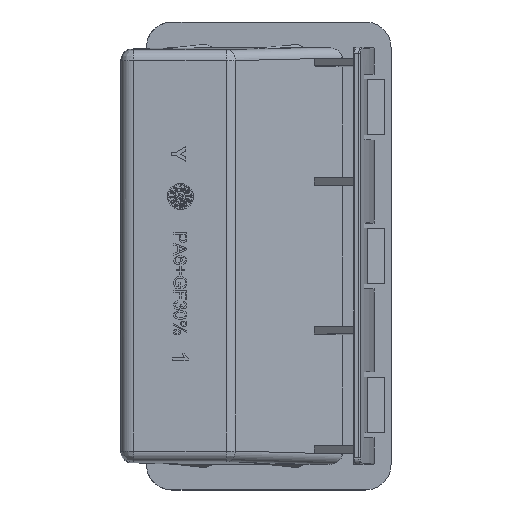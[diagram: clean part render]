
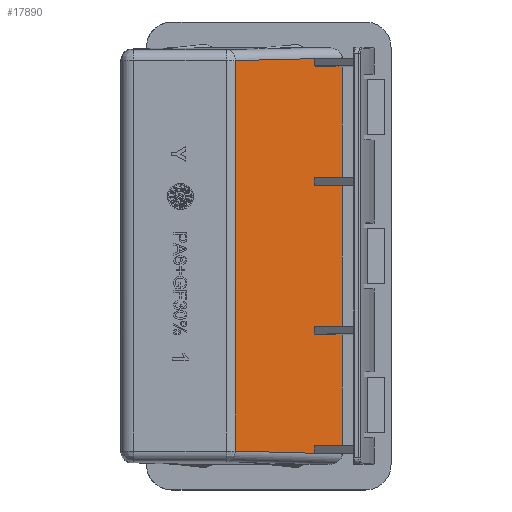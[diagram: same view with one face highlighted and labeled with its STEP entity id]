
A CAD part, top view. The second image highlights one B-rep face of the part: STEP entity #17890.
In plain terms, the highlighted planar face has unit normal (0.707, 0, 0.707).
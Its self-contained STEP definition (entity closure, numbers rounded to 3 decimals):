
#520=DIRECTION('',(0.,1.,0.));
#521=VECTOR('',#520,0.066);
#522=CARTESIAN_POINT('',(17.25,-46.545,2.));
#523=LINE('',#522,#521);
#552=DIRECTION('',(0.,1.,0.));
#553=VECTOR('',#552,26.041);
#554=CARTESIAN_POINT('',(17.25,-44.521,2.));
#555=LINE('',#554,#553);
#580=DIRECTION('',(0.,1.,0.));
#581=VECTOR('',#580,33.041);
#582=CARTESIAN_POINT('',(17.25,-16.521,2.));
#583=LINE('',#582,#581);
#608=DIRECTION('',(0.,1.,0.));
#609=VECTOR('',#608,26.041);
#610=CARTESIAN_POINT('',(17.25,18.479,2.));
#611=LINE('',#610,#609);
#636=DIRECTION('',(0.,1.,0.));
#637=VECTOR('',#636,0.066);
#638=CARTESIAN_POINT('',(17.25,46.479,2.));
#639=LINE('',#638,#637);
#743=DIRECTION('',(0.707,-0.019,-0.707));
#744=VECTOR('',#743,35.533);
#745=CARTESIAN_POINT('',(-7.871,-45.888,27.121));
#746=LINE('',#745,#744);
#747=DIRECTION('',(0.,-1.,0.));
#748=VECTOR('',#747,91.775);
#749=CARTESIAN_POINT('',(-7.871,45.888,27.121));
#750=LINE('',#749,#748);
#751=DIRECTION('',(-0.707,-0.019,0.707));
#752=VECTOR('',#751,35.533);
#753=CARTESIAN_POINT('',(17.25,46.545,2.));
#754=LINE('',#753,#752);
#755=DIRECTION('',(-0.707,-0.014,0.707));
#756=VECTOR('',#755,9.265);
#757=CARTESIAN_POINT('',(17.25,46.479,2.));
#758=LINE('',#757,#756);
#759=DIRECTION('',(0.,1.,0.));
#760=VECTOR('',#759,1.7);
#761=CARTESIAN_POINT('',(10.699,44.65,8.551));
#762=LINE('',#761,#760);
#763=DIRECTION('',(-0.707,0.014,0.707));
#764=VECTOR('',#763,9.265);
#765=CARTESIAN_POINT('',(17.25,44.521,2.));
#766=LINE('',#765,#764);
#767=DIRECTION('',(-0.707,-0.014,0.707));
#768=VECTOR('',#767,9.265);
#769=CARTESIAN_POINT('',(17.25,18.479,2.));
#770=LINE('',#769,#768);
#771=DIRECTION('',(0.,1.,0.));
#772=VECTOR('',#771,1.7);
#773=CARTESIAN_POINT('',(10.699,16.65,8.551));
#774=LINE('',#773,#772);
#775=DIRECTION('',(-0.707,0.014,0.707));
#776=VECTOR('',#775,9.265);
#777=CARTESIAN_POINT('',(17.25,16.521,2.));
#778=LINE('',#777,#776);
#779=DIRECTION('',(-0.707,-0.014,0.707));
#780=VECTOR('',#779,9.265);
#781=CARTESIAN_POINT('',(17.25,-16.521,2.));
#782=LINE('',#781,#780);
#783=DIRECTION('',(0.,-1.,0.));
#784=VECTOR('',#783,1.7);
#785=CARTESIAN_POINT('',(10.699,-16.65,8.551));
#786=LINE('',#785,#784);
#787=DIRECTION('',(-0.707,0.014,0.707));
#788=VECTOR('',#787,9.265);
#789=CARTESIAN_POINT('',(17.25,-18.479,2.));
#790=LINE('',#789,#788);
#791=DIRECTION('',(-0.707,-0.014,0.707));
#792=VECTOR('',#791,9.265);
#793=CARTESIAN_POINT('',(17.25,-44.521,2.));
#794=LINE('',#793,#792);
#795=DIRECTION('',(0.,-1.,0.));
#796=VECTOR('',#795,1.7);
#797=CARTESIAN_POINT('',(10.699,-44.65,8.551));
#798=LINE('',#797,#796);
#799=DIRECTION('',(-0.707,0.014,0.707));
#800=VECTOR('',#799,9.265);
#801=CARTESIAN_POINT('',(17.25,-46.479,2.));
#802=LINE('',#801,#800);
#14755=CARTESIAN_POINT('',(10.699,44.65,8.551));
#14756=CARTESIAN_POINT('',(10.699,46.35,8.551));
#14757=VERTEX_POINT('',#14755);
#14758=VERTEX_POINT('',#14756);
#14767=CARTESIAN_POINT('',(17.25,18.479,2.));
#14768=CARTESIAN_POINT('',(17.25,44.521,2.));
#14769=VERTEX_POINT('',#14767);
#14770=VERTEX_POINT('',#14768);
#14771=CARTESIAN_POINT('',(10.699,16.65,8.551));
#14772=CARTESIAN_POINT('',(10.699,18.35,8.551));
#14773=VERTEX_POINT('',#14771);
#14774=VERTEX_POINT('',#14772);
#14783=CARTESIAN_POINT('',(10.699,-44.65,8.551));
#14784=CARTESIAN_POINT('',(10.699,-46.35,8.551));
#14785=VERTEX_POINT('',#14783);
#14786=VERTEX_POINT('',#14784);
#14793=CARTESIAN_POINT('',(17.25,-16.521,2.));
#14794=CARTESIAN_POINT('',(17.25,16.521,2.));
#14795=VERTEX_POINT('',#14793);
#14796=VERTEX_POINT('',#14794);
#14799=CARTESIAN_POINT('',(17.25,-44.521,2.));
#14800=CARTESIAN_POINT('',(17.25,-18.479,2.));
#14801=VERTEX_POINT('',#14799);
#14802=VERTEX_POINT('',#14800);
#14803=CARTESIAN_POINT('',(10.699,-16.65,8.551));
#14804=CARTESIAN_POINT('',(10.699,-18.35,8.551));
#14805=VERTEX_POINT('',#14803);
#14806=VERTEX_POINT('',#14804);
#14811=CARTESIAN_POINT('',(17.25,-46.479,2.));
#14812=VERTEX_POINT('',#14811);
#14813=CARTESIAN_POINT('',(17.25,46.479,2.));
#14814=VERTEX_POINT('',#14813);
#14819=CARTESIAN_POINT('',(-7.871,-45.888,
27.121));
#14820=CARTESIAN_POINT('',(17.25,-46.545,2.));
#14821=VERTEX_POINT('',#14819);
#14822=VERTEX_POINT('',#14820);
#14855=CARTESIAN_POINT('',(-7.871,45.888,
27.121));
#14856=VERTEX_POINT('',#14855);
#14879=CARTESIAN_POINT('',(17.25,46.545,2.));
#14880=VERTEX_POINT('',#14879);
#17849=CARTESIAN_POINT('',(-8.75,-49.,28.));
#17850=DIRECTION('',(0.707,0.,0.707));
#17851=DIRECTION('',(0.707,0.,-0.707));
#17852=AXIS2_PLACEMENT_3D('',#17849,#17850,#17851);
#17853=PLANE('',#17852);
#17855=ORIENTED_EDGE('',*,*,#17854,.F.);
#17857=ORIENTED_EDGE('',*,*,#17856,.F.);
#17858=ORIENTED_EDGE('',*,*,#17840,.F.);
#17859=ORIENTED_EDGE('',*,*,#17712,.F.);
#17861=ORIENTED_EDGE('',*,*,#17860,.T.);
#17863=ORIENTED_EDGE('',*,*,#17862,.F.);
#17865=ORIENTED_EDGE('',*,*,#17864,.F.);
#17866=ORIENTED_EDGE('',*,*,#17694,.F.);
#17868=ORIENTED_EDGE('',*,*,#17867,.T.);
#17870=ORIENTED_EDGE('',*,*,#17869,.F.);
#17872=ORIENTED_EDGE('',*,*,#17871,.F.);
#17873=ORIENTED_EDGE('',*,*,#17678,.F.);
#17875=ORIENTED_EDGE('',*,*,#17874,.T.);
#17877=ORIENTED_EDGE('',*,*,#17876,.T.);
#17879=ORIENTED_EDGE('',*,*,#17878,.F.);
#17880=ORIENTED_EDGE('',*,*,#17662,.F.);
#17882=ORIENTED_EDGE('',*,*,#17881,.T.);
#17884=ORIENTED_EDGE('',*,*,#17883,.T.);
#17886=ORIENTED_EDGE('',*,*,#17885,.F.);
#17887=ORIENTED_EDGE('',*,*,#17644,.F.);
#17888=EDGE_LOOP('',(#17855,#17857,#17858,#17859,#17861,#17863,#17865,#17866,
#17868,#17870,#17872,#17873,#17875,#17877,#17879,#17880,#17882,#17884,#17886,
#17887));
#17889=FACE_OUTER_BOUND('',#17888,.F.);
#17890=ADVANCED_FACE('',(#17889),#17853,.T.);
#17644=EDGE_CURVE('',#14822,#14812,#523,.T.);
#17662=EDGE_CURVE('',#14801,#14802,#555,.T.);
#17678=EDGE_CURVE('',#14795,#14796,#583,.T.);
#17694=EDGE_CURVE('',#14769,#14770,#611,.T.);
#17712=EDGE_CURVE('',#14814,#14880,#639,.T.);
#17840=EDGE_CURVE('',#14880,#14856,#754,.T.);
#17854=EDGE_CURVE('',#14821,#14822,#746,.T.);
#17856=EDGE_CURVE('',#14856,#14821,#750,.T.);
#17860=EDGE_CURVE('',#14814,#14758,#758,.T.);
#17862=EDGE_CURVE('',#14757,#14758,#762,.T.);
#17864=EDGE_CURVE('',#14770,#14757,#766,.T.);
#17867=EDGE_CURVE('',#14769,#14774,#770,.T.);
#17869=EDGE_CURVE('',#14773,#14774,#774,.T.);
#17871=EDGE_CURVE('',#14796,#14773,#778,.T.);
#17874=EDGE_CURVE('',#14795,#14805,#782,.T.);
#17876=EDGE_CURVE('',#14805,#14806,#786,.T.);
#17878=EDGE_CURVE('',#14802,#14806,#790,.T.);
#17881=EDGE_CURVE('',#14801,#14785,#794,.T.);
#17883=EDGE_CURVE('',#14785,#14786,#798,.T.);
#17885=EDGE_CURVE('',#14812,#14786,#802,.T.);
